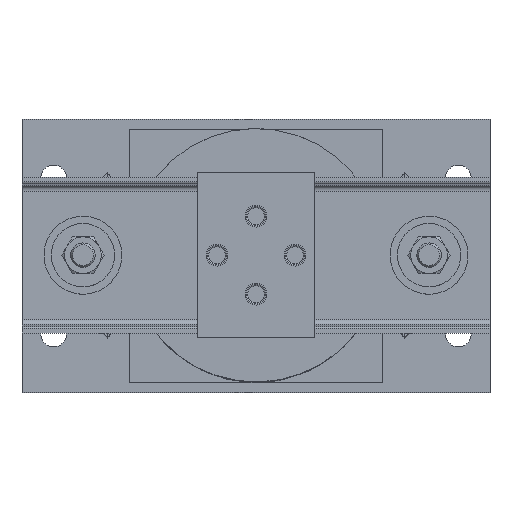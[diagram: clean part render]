
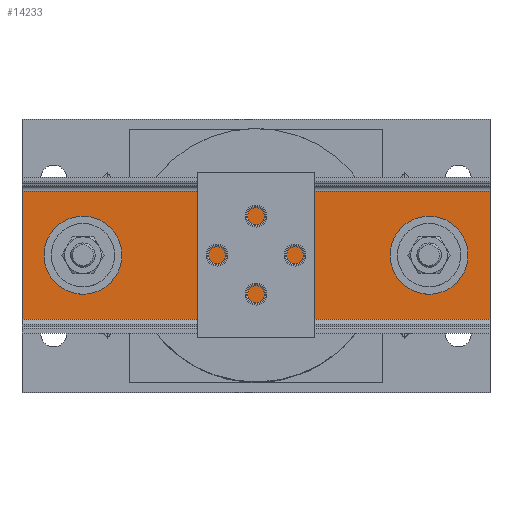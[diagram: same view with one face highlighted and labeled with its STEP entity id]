
A CAD part, top view. The second image highlights one B-rep face of the part: STEP entity #14233.
In plain terms, the highlighted planar face has unit normal (0, 0, 1).
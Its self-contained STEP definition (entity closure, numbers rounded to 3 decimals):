
#1909=FACE_BOUND('',#3616,.T.);
#1910=FACE_BOUND('',#3617,.T.);
#1911=FACE_BOUND('',#3618,.T.);
#2114=CIRCLE('',#15329,0.188);
#2116=CIRCLE('',#15332,1.125);
#2118=CIRCLE('',#15335,1.125);
#2571=FACE_OUTER_BOUND('',#3615,.T.);
#3615=EDGE_LOOP('',(#9356,#9357,#9358,#9359));
#3616=EDGE_LOOP('',(#9360));
#3617=EDGE_LOOP('',(#9361));
#3618=EDGE_LOOP('',(#9362));
#4712=LINE('',#18663,#5214);
#4736=LINE('',#18722,#5238);
#4737=LINE('',#18725,#5239);
#4738=LINE('',#18726,#5240);
#5214=VECTOR('',#16547,24.);
#5238=VECTOR('',#16601,24.);
#5239=VECTOR('',#16606,6.572);
#5240=VECTOR('',#16607,6.572);
#5730=VERTEX_POINT('',#18643);
#5732=VERTEX_POINT('',#18648);
#5734=VERTEX_POINT('',#18653);
#5735=VERTEX_POINT('',#18656);
#5738=VERTEX_POINT('',#18661);
#5757=VERTEX_POINT('',#18719);
#5758=VERTEX_POINT('',#18721);
#7001=EDGE_CURVE('',#5730,#5730,#2114,.T.);
#7003=EDGE_CURVE('',#5732,#5732,#2116,.T.);
#7005=EDGE_CURVE('',#5734,#5734,#2118,.T.);
#7009=EDGE_CURVE('',#5738,#5735,#4712,.T.);
#7038=EDGE_CURVE('',#5758,#5757,#4736,.T.);
#7040=EDGE_CURVE('',#5757,#5735,#4737,.T.);
#7041=EDGE_CURVE('',#5758,#5738,#4738,.T.);
#9356=ORIENTED_EDGE('',*,*,#7040,.T.);
#9357=ORIENTED_EDGE('',*,*,#7009,.F.);
#9358=ORIENTED_EDGE('',*,*,#7041,.F.);
#9359=ORIENTED_EDGE('',*,*,#7038,.T.);
#9360=ORIENTED_EDGE('',*,*,#7001,.T.);
#9361=ORIENTED_EDGE('',*,*,#7003,.T.);
#9362=ORIENTED_EDGE('',*,*,#7005,.T.);
#12872=PLANE('',#15355);
#14233=ADVANCED_FACE('',(#2571,#1909,#1910,#1911),#12872,.T.);
#15329=AXIS2_PLACEMENT_3D('',#18644,#16526,#16527);
#15332=AXIS2_PLACEMENT_3D('',#18649,#16532,#16533);
#15335=AXIS2_PLACEMENT_3D('',#18654,#16538,#16539);
#15355=AXIS2_PLACEMENT_3D('',#18724,#16604,#16605);
#16526=DIRECTION('center_axis',(0.,0.,
-1.));
#16527=DIRECTION('ref_axis',(1.,0.,0.));
#16532=DIRECTION('center_axis',(0.,0.,
-1.));
#16533=DIRECTION('ref_axis',(1.,0.,0.));
#16538=DIRECTION('center_axis',(0.,0.,
-1.));
#16539=DIRECTION('ref_axis',(1.,0.,0.));
#16547=DIRECTION('',(-1.,0.,0.));
#16601=DIRECTION('',(-1.,0.,0.));
#16604=DIRECTION('center_axis',(0.,0.,
1.));
#16605=DIRECTION('ref_axis',(1.,0.,0.));
#16606=DIRECTION('',(0.,-1.,0.));
#16607=DIRECTION('',(0.,-1.,0.));
#18643=CARTESIAN_POINT('',(0.187,0.,24.21));
#18644=CARTESIAN_POINT('Origin',(0.,0.,
24.21));
#18648=CARTESIAN_POINT('',(10.,0.,24.21));
#18649=CARTESIAN_POINT('Origin',(8.875,0.,
24.21));
#18653=CARTESIAN_POINT('',(-7.75,0.,24.21));
#18654=CARTESIAN_POINT('Origin',(-8.875,0.,
24.21));
#18656=CARTESIAN_POINT('',(-12.,-3.286,24.21));
#18661=CARTESIAN_POINT('',(12.,-3.286,24.21));
#18663=CARTESIAN_POINT('',(12.,-3.286,24.21));
#18719=CARTESIAN_POINT('',(-12.,3.286,24.21));
#18721=CARTESIAN_POINT('',(12.,3.286,24.21));
#18722=CARTESIAN_POINT('',(12.,3.286,24.21));
#18724=CARTESIAN_POINT('Origin',(12.,0.,24.21));
#18725=CARTESIAN_POINT('',(-12.,0.,24.21));
#18726=CARTESIAN_POINT('',(12.,0.,24.21));
